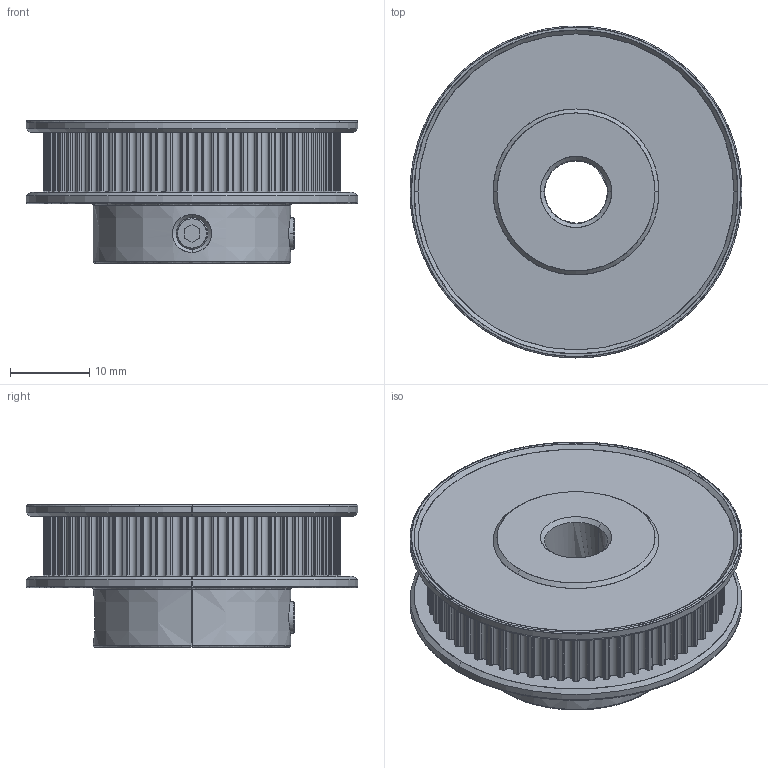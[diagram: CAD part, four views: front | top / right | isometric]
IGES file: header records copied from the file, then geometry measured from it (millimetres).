
Start section: SolidWorks IGES file using analytic representation for surfaces
Global section: file name: D:\ban_ve_solidwork\GT2_60T_8_6.IGS; native system: SolidWorks 2019; preprocessor: SolidWorks 2019; author: ADMIN; date: 210218.224409; units: millimetre
Bounding box: 42 x 42 x 18 mm (x, y, z)
Surface area: 6017.2 mm2 (no closed solid volume)
Topology: 0 solids, 0 shells, 604 faces, 5781 edges, 5781 vertices
Faces by surface type: revolution 447, bspline 157
